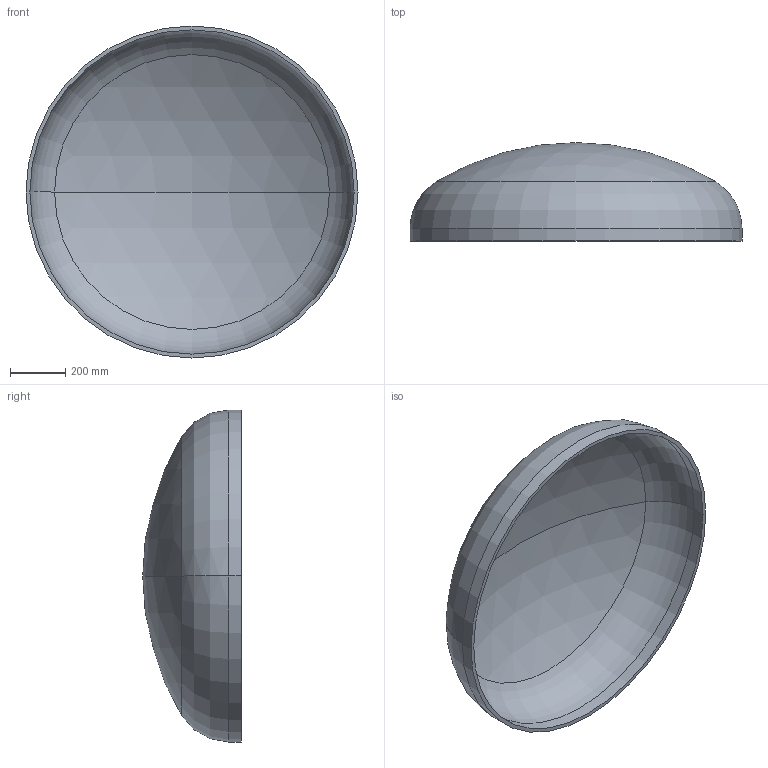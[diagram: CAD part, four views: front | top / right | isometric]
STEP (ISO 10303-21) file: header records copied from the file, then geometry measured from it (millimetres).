
FILE_DESCRIPTION (( 'STEP AP203' ), '1' );
FILE_NAME ('DIN 28013 Korbbogenform_-_Boden DIN 28013 - 1200 x 45 - I - s=14.step', '2016-07-01T09:21:39', ( '' ), ( '' ), 'SwSTEP 2.0', 'SolidWorks 2013', '' );
FILE_SCHEMA (( 'CONFIG_CONTROL_DESIGN' ));
Length unit declared in the file: millimetre
Products named in the file (1): DIN 28013 Korbbogenform_-_Boden DIN 28013 - 1200 x 45 - I - s=14
Bounding box: 1200 x 355.81 x 1200 mm (x, y, z)
Volume: 23945577.1 mm3; surface area: 3473369 mm2
Topology: 1 solids, 1 shells, 13 faces, 24 edges, 14 vertices
Faces by surface type: torus 4, cylinder 4, sphere 4, plane 1
Entity records: 407 total; most frequent: DIRECTION 72, CARTESIAN_POINT 52, ORIENTED_EDGE 48, AXIS2_PLACEMENT_3D 34, EDGE_CURVE 24, CIRCLE 20, VERTEX_POINT 14, EDGE_LOOP 14
